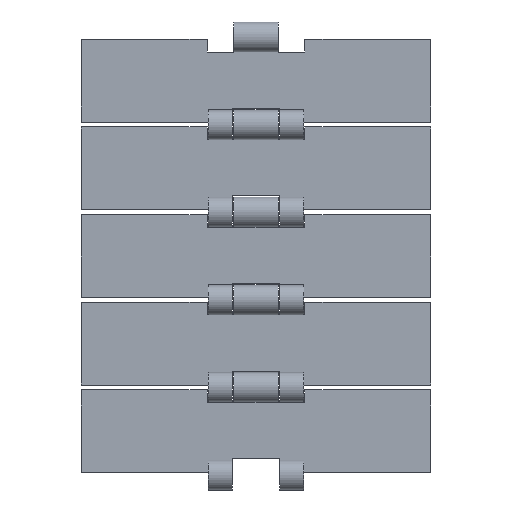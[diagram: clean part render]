
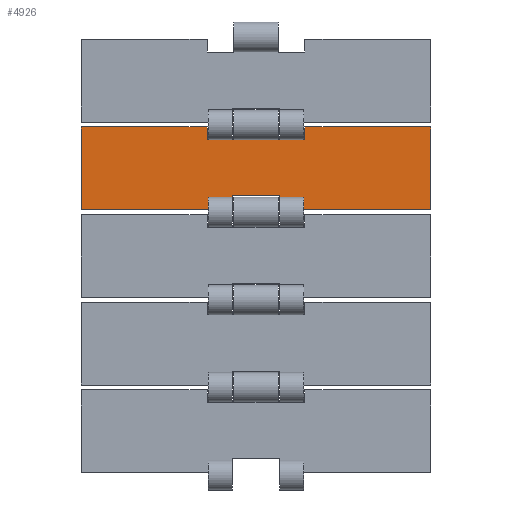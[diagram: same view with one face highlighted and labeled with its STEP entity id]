
A CAD part, front view. The second image highlights one B-rep face of the part: STEP entity #4926.
In plain terms, the highlighted planar face has unit normal (0, -1, 0).
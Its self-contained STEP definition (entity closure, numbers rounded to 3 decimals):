
#20 = EDGE_CURVE ( 'NONE', #2524, #717, #2452, .T. ) ;
#64 = VECTOR ( 'NONE', #2192, 1000. ) ;
#77 = CARTESIAN_POINT ( 'NONE',  ( -21.25, 0., 190.5 ) ) ;
#170 = EDGE_CURVE ( 'NONE', #2911, #2473, #5029, .T. ) ;
#181 = ORIENTED_EDGE ( 'NONE', *, *, #1464, .F. ) ;
#199 = CARTESIAN_POINT ( 'NONE',  ( -10.25, 0., 178.5 ) ) ;
#206 = CARTESIAN_POINT ( 'NONE',  ( 0., 0., 203. ) ) ;
#285 = ORIENTED_EDGE ( 'NONE', *, *, #3673, .F. ) ;
#295 = CARTESIAN_POINT ( 'NONE',  ( -20.75, 0., 176.927 ) ) ;
#298 = ORIENTED_EDGE ( 'NONE', *, *, #3840, .T. ) ;
#333 = ORIENTED_EDGE ( 'NONE', *, *, #1709, .T. ) ;
#364 = CARTESIAN_POINT ( 'NONE',  ( -9.75, 0., 203. ) ) ;
#375 = VECTOR ( 'NONE', #1783, 1000. ) ;
#393 = VECTOR ( 'NONE', #4092, 1000. ) ;
#416 = LINE ( 'NONE', #2916, #2517 ) ;
#469 = ORIENTED_EDGE ( 'NONE', *, *, #4672, .F. ) ;
#529 = CARTESIAN_POINT ( 'NONE',  ( -76., 0., 172.5 ) ) ;
#609 = DIRECTION ( 'NONE',  ( -1., 0., 0. ) ) ;
#664 = ORIENTED_EDGE ( 'NONE', *, *, #1729, .T. ) ;
#714 = DIRECTION ( 'NONE',  ( 0., 0., -1. ) ) ;
#717 = VERTEX_POINT ( 'NONE', #3935 ) ;
#741 = VECTOR ( 'NONE', #2212, 1000. ) ;
#745 = VECTOR ( 'NONE', #714, 1000. ) ;
#765 = VERTEX_POINT ( 'NONE', #2578 ) ;
#799 = EDGE_CURVE ( 'NONE', #3059, #717, #2009, .T. ) ;
#802 = VECTOR ( 'NONE', #946, 1000. ) ;
#803 = PLANE ( 'NONE',  #3272 ) ;
#832 = DIRECTION ( 'NONE',  ( 0., 1., 0. ) ) ;
#865 = LINE ( 'NONE', #2607, #1900 ) ;
#880 = CARTESIAN_POINT ( 'NONE',  ( -10.25, 0., 176.927 ) ) ;
#885 = DIRECTION ( 'NONE',  ( -1., 0., 0. ) ) ;
#923 = LINE ( 'NONE', #4014, #3812 ) ;
#946 = DIRECTION ( 'NONE',  ( 0., 0., 1. ) ) ;
#955 = LINE ( 'NONE', #2236, #741 ) ;
#998 = CARTESIAN_POINT ( 'NONE',  ( 9.75, 0., 204.073 ) ) ;
#1009 = ORIENTED_EDGE ( 'NONE', *, *, #1511, .T. ) ;
#1070 = VERTEX_POINT ( 'NONE', #5380 ) ;
#1093 = LINE ( 'NONE', #3226, #5222 ) ;
#1150 = LINE ( 'NONE', #2895, #745 ) ;
#1151 = LINE ( 'NONE', #4609, #4446 ) ;
#1210 = FACE_OUTER_BOUND ( 'NONE', #4023, .T. ) ;
#1223 = CARTESIAN_POINT ( 'NONE',  ( 59.385, 0., 176.927 ) ) ;
#1240 = DIRECTION ( 'NONE',  ( -1., 0., 0. ) ) ;
#1299 = CARTESIAN_POINT ( 'NONE',  ( 0., 0., 172.5 ) ) ;
#1345 = ORIENTED_EDGE ( 'NONE', *, *, #4920, .F. ) ;
#1392 = VERTEX_POINT ( 'NONE', #3712 ) ;
#1464 = EDGE_CURVE ( 'NONE', #2589, #1614, #2591, .T. ) ;
#1511 = EDGE_CURVE ( 'NONE', #5629, #4021, #416, .T. ) ;
#1614 = VERTEX_POINT ( 'NONE', #1846 ) ;
#1644 = CARTESIAN_POINT ( 'NONE',  ( -21.25, 0., 203. ) ) ;
#1662 = LINE ( 'NONE', #5615, #2163 ) ;
#1663 = DIRECTION ( 'NONE',  ( 1., 0., 0. ) ) ;
#1669 = ORIENTED_EDGE ( 'NONE', *, *, #5167, .T. ) ;
#1708 = VECTOR ( 'NONE', #4206, 1000. ) ;
#1709 = EDGE_CURVE ( 'NONE', #5050, #2979, #1979, .T. ) ;
#1729 = EDGE_CURVE ( 'NONE', #2933, #1070, #1093, .T. ) ;
#1774 = VERTEX_POINT ( 'NONE', #3630 ) ;
#1783 = DIRECTION ( 'NONE',  ( 0., 0., 1. ) ) ;
#1800 = VECTOR ( 'NONE', #4346, 1000. ) ;
#1846 = CARTESIAN_POINT ( 'NONE',  ( 9.75, 0., 203. ) ) ;
#1883 = EDGE_CURVE ( 'NONE', #2587, #3650, #2991, .T. ) ;
#1900 = VECTOR ( 'NONE', #3934, 1000. ) ;
#1944 = CARTESIAN_POINT ( 'NONE',  ( -20.75, 0., 171.45 ) ) ;
#1979 = LINE ( 'NONE', #206, #2568 ) ;
#1990 = EDGE_CURVE ( 'NONE', #765, #5050, #955, .T. ) ;
#1996 = CARTESIAN_POINT ( 'NONE',  ( 20.75, 0., 172.5 ) ) ;
#2009 = LINE ( 'NONE', #5501, #375 ) ;
#2149 = LINE ( 'NONE', #1299, #1708 ) ;
#2163 = VECTOR ( 'NONE', #2510, 1000. ) ;
#2192 = DIRECTION ( 'NONE',  ( 0., 0., -1. ) ) ;
#2205 = CARTESIAN_POINT ( 'NONE',  ( -20.75, 0., 172.5 ) ) ;
#2212 = DIRECTION ( 'NONE',  ( 0., 0., -1. ) ) ;
#2236 = CARTESIAN_POINT ( 'NONE',  ( -9.75, 0., 190.5 ) ) ;
#2241 = ORIENTED_EDGE ( 'NONE', *, *, #20, .T. ) ;
#2299 = EDGE_CURVE ( 'NONE', #1070, #5598, #1150, .T. ) ;
#2396 = VECTOR ( 'NONE', #5186, 1000. ) ;
#2399 = VECTOR ( 'NONE', #885, 1000. ) ;
#2452 = LINE ( 'NONE', #4636, #2396 ) ;
#2473 = VERTEX_POINT ( 'NONE', #2205 ) ;
#2483 = LINE ( 'NONE', #2985, #5006 ) ;
#2510 = DIRECTION ( 'NONE',  ( 0., 0., 1. ) ) ;
#2517 = VECTOR ( 'NONE', #5652, 1000. ) ;
#2524 = VERTEX_POINT ( 'NONE', #2662 ) ;
#2568 = VECTOR ( 'NONE', #609, 1000. ) ;
#2578 = CARTESIAN_POINT ( 'NONE',  ( -9.75, 0., 204.073 ) ) ;
#2587 = VERTEX_POINT ( 'NONE', #4463 ) ;
#2589 = VERTEX_POINT ( 'NONE', #998 ) ;
#2591 = LINE ( 'NONE', #5111, #1800 ) ;
#2607 = CARTESIAN_POINT ( 'NONE',  ( 20.75, 0., 176.927 ) ) ;
#2662 = CARTESIAN_POINT ( 'NONE',  ( 76., 0., 208.5 ) ) ;
#2881 = EDGE_CURVE ( 'NONE', #2589, #765, #4380, .T. ) ;
#2895 = CARTESIAN_POINT ( 'NONE',  ( -76., 0., 190.5 ) ) ;
#2911 = VERTEX_POINT ( 'NONE', #295 ) ;
#2916 = CARTESIAN_POINT ( 'NONE',  ( -10.25, 0., 190.5 ) ) ;
#2933 = VERTEX_POINT ( 'NONE', #5108 ) ;
#2979 = VERTEX_POINT ( 'NONE', #1644 ) ;
#2985 = CARTESIAN_POINT ( 'NONE',  ( 0., 0., 203. ) ) ;
#2991 = LINE ( 'NONE', #5587, #3037 ) ;
#3000 = DIRECTION ( 'NONE',  ( -1., 0., 0. ) ) ;
#3037 = VECTOR ( 'NONE', #1240, 1000. ) ;
#3059 = VERTEX_POINT ( 'NONE', #5527 ) ;
#3226 = CARTESIAN_POINT ( 'NONE',  ( 0., 0., 208.5 ) ) ;
#3272 = AXIS2_PLACEMENT_3D ( 'NONE', #4361, #832, #1663 ) ;
#3582 = VECTOR ( 'NONE', #3000, 1000. ) ;
#3630 = CARTESIAN_POINT ( 'NONE',  ( 10.25, 0., 178.5 ) ) ;
#3643 = EDGE_CURVE ( 'NONE', #1774, #4021, #1151, .T. ) ;
#3650 = VERTEX_POINT ( 'NONE', #1996 ) ;
#3673 = EDGE_CURVE ( 'NONE', #2473, #5598, #2149, .T. ) ;
#3712 = CARTESIAN_POINT ( 'NONE',  ( 10.25, 0., 176.927 ) ) ;
#3725 = EDGE_CURVE ( 'NONE', #1392, #1774, #1662, .T. ) ;
#3812 = VECTOR ( 'NONE', #4921, 1000. ) ;
#3840 = EDGE_CURVE ( 'NONE', #2911, #5629, #923, .T. ) ;
#3850 = ORIENTED_EDGE ( 'NONE', *, *, #170, .F. ) ;
#3885 = ORIENTED_EDGE ( 'NONE', *, *, #1883, .F. ) ;
#3891 = LINE ( 'NONE', #4772, #64 ) ;
#3934 = DIRECTION ( 'NONE',  ( 0., 0., -1. ) ) ;
#3935 = CARTESIAN_POINT ( 'NONE',  ( 21.25, 0., 208.5 ) ) ;
#4014 = CARTESIAN_POINT ( 'NONE',  ( 59.385, 0., 176.927 ) ) ;
#4021 = VERTEX_POINT ( 'NONE', #199 ) ;
#4023 = EDGE_LOOP ( 'NONE', ( #1669, #664, #5649, #285, #3850, #298, #1009, #5275, #4245, #4723, #4991, #3885, #469, #2241, #5141, #1345, #181, #5019, #4110, #333 ) ) ;
#4092 = DIRECTION ( 'NONE',  ( 0., 0., -1. ) ) ;
#4110 = ORIENTED_EDGE ( 'NONE', *, *, #1990, .T. ) ;
#4177 = DIRECTION ( 'NONE',  ( -1., 0., 0. ) ) ;
#4206 = DIRECTION ( 'NONE',  ( -1., 0., 0. ) ) ;
#4234 = DIRECTION ( 'NONE',  ( 1., 0., 0. ) ) ;
#4245 = ORIENTED_EDGE ( 'NONE', *, *, #3725, .F. ) ;
#4346 = DIRECTION ( 'NONE',  ( 0., 0., -1. ) ) ;
#4348 = LINE ( 'NONE', #1223, #3582 ) ;
#4361 = CARTESIAN_POINT ( 'NONE',  ( 0., 0., 190.5 ) ) ;
#4380 = LINE ( 'NONE', #4809, #2399 ) ;
#4446 = VECTOR ( 'NONE', #4177, 1000. ) ;
#4463 = CARTESIAN_POINT ( 'NONE',  ( 76., 0., 172.5 ) ) ;
#4609 = CARTESIAN_POINT ( 'NONE',  ( 0., 0., 178.5 ) ) ;
#4614 = DIRECTION ( 'NONE',  ( -1., 0., 0. ) ) ;
#4636 = CARTESIAN_POINT ( 'NONE',  ( 0., 0., 208.5 ) ) ;
#4672 = EDGE_CURVE ( 'NONE', #2524, #2587, #3891, .T. ) ;
#4723 = ORIENTED_EDGE ( 'NONE', *, *, #5514, .F. ) ;
#4772 = CARTESIAN_POINT ( 'NONE',  ( 76., 0., 190.5 ) ) ;
#4809 = CARTESIAN_POINT ( 'NONE',  ( 59.385, 0., 204.073 ) ) ;
#4838 = CARTESIAN_POINT ( 'NONE',  ( 20.75, 0., 176.927 ) ) ;
#4920 = EDGE_CURVE ( 'NONE', #1614, #3059, #2483, .T. ) ;
#4921 = DIRECTION ( 'NONE',  ( 1., 0., 0. ) ) ;
#4926 = ADVANCED_FACE ( 'NONE', ( #1210 ), #803, .F. ) ;
#4973 = EDGE_CURVE ( 'NONE', #5194, #3650, #865, .T. ) ;
#4991 = ORIENTED_EDGE ( 'NONE', *, *, #4973, .T. ) ;
#5006 = VECTOR ( 'NONE', #4234, 1000. ) ;
#5019 = ORIENTED_EDGE ( 'NONE', *, *, #2881, .T. ) ;
#5029 = LINE ( 'NONE', #1944, #393 ) ;
#5050 = VERTEX_POINT ( 'NONE', #364 ) ;
#5108 = CARTESIAN_POINT ( 'NONE',  ( -21.25, 0., 208.5 ) ) ;
#5111 = CARTESIAN_POINT ( 'NONE',  ( 9.75, 0., 190.5 ) ) ;
#5141 = ORIENTED_EDGE ( 'NONE', *, *, #799, .F. ) ;
#5167 = EDGE_CURVE ( 'NONE', #2979, #2933, #5352, .T. ) ;
#5186 = DIRECTION ( 'NONE',  ( -1., 0., 0. ) ) ;
#5194 = VERTEX_POINT ( 'NONE', #4838 ) ;
#5222 = VECTOR ( 'NONE', #4614, 1000. ) ;
#5275 = ORIENTED_EDGE ( 'NONE', *, *, #3643, .F. ) ;
#5352 = LINE ( 'NONE', #77, #802 ) ;
#5380 = CARTESIAN_POINT ( 'NONE',  ( -76., 0., 208.5 ) ) ;
#5501 = CARTESIAN_POINT ( 'NONE',  ( 21.25, 0., 190.5 ) ) ;
#5514 = EDGE_CURVE ( 'NONE', #5194, #1392, #4348, .T. ) ;
#5527 = CARTESIAN_POINT ( 'NONE',  ( 21.25, 0., 203. ) ) ;
#5587 = CARTESIAN_POINT ( 'NONE',  ( 0., 0., 172.5 ) ) ;
#5598 = VERTEX_POINT ( 'NONE', #529 ) ;
#5615 = CARTESIAN_POINT ( 'NONE',  ( 10.25, 0., 190.5 ) ) ;
#5629 = VERTEX_POINT ( 'NONE', #880 ) ;
#5649 = ORIENTED_EDGE ( 'NONE', *, *, #2299, .T. ) ;
#5652 = DIRECTION ( 'NONE',  ( 0., 0., 1. ) ) ;
